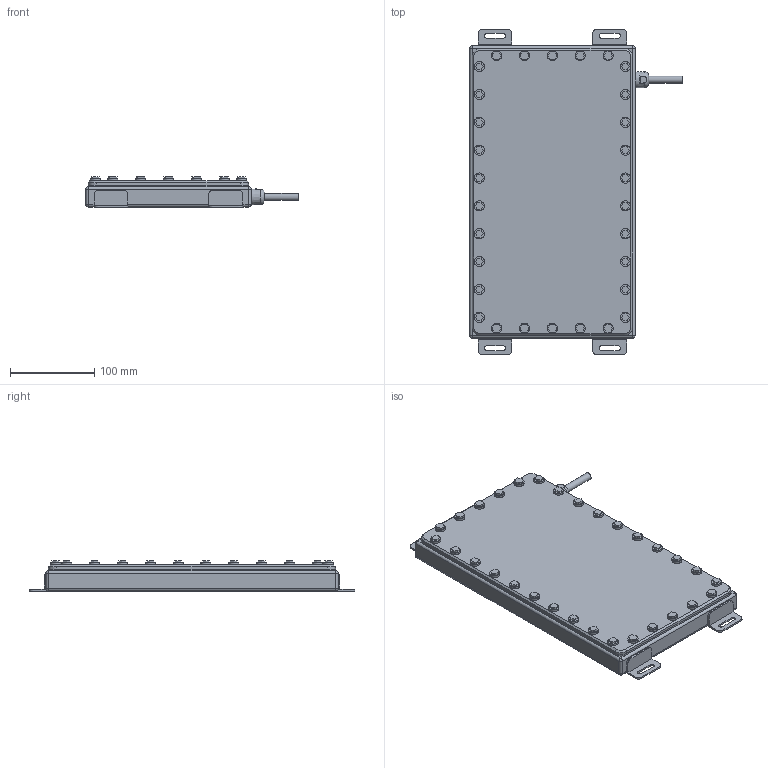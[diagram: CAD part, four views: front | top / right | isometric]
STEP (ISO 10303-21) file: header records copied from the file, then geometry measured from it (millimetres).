
FILE_DESCRIPTION (( 'STEP AP214' ), '1' );
FILE_NAME ('EFFI-BL-IP69K-150-300-ZZZ-FOOD.STEP', '2021-06-16T14:35:52', ( '' ), ( '' ), 'SwSTEP 2.0', 'SolidWorks 2021', '' );
FILE_SCHEMA (( 'AUTOMOTIVE_DESIGN' ));
Length unit declared in the file: millimetre
Products named in the file (1): EFFI-BL-IP69K-150-300-ZZZ-FOOD
Bounding box: 252 x 386 x 35.6 mm (x, y, z)
Volume: 2102443.4 mm3; surface area: 311839.8 mm2
Topology: 19 solids, 19 shells, 434 faces, 1008 edges, 653 vertices
Faces by surface type: plane 325, cylinder 84, bspline 9, sphere 8, cone 5, torus 3
Full cylindrical faces by diameter (mm): 7 x1, 8.4 x1, 12 x31, 14 x1, 19 x1
Entity records: 13279 total; most frequent: CARTESIAN_POINT 3089, DIRECTION 1967, ORIENTED_EDGE 1912, EDGE_CURVE 956, VECTOR 747, LINE 747, VERTEX_POINT 646, AXIS2_PLACEMENT_3D 610
